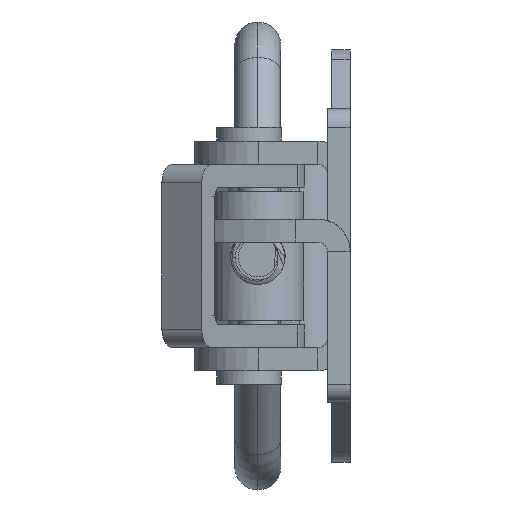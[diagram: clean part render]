
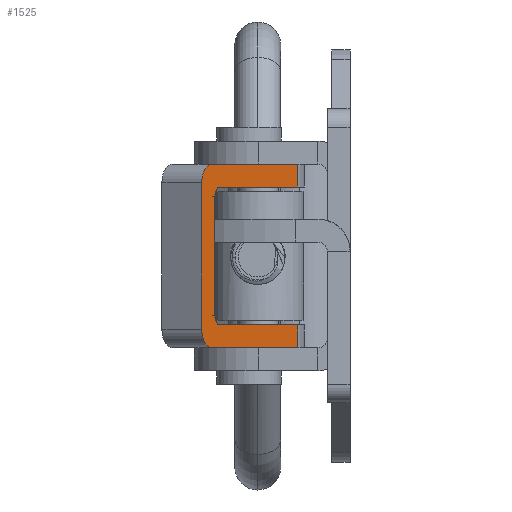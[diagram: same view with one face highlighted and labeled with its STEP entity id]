
A CAD part, left-side view. The second image highlights one B-rep face of the part: STEP entity #1525.
In plain terms, the highlighted planar face has unit normal (-0.574, -0.819, 0) as drawn and (0.574, -0.819, 0) by its records, which use the part's own axes.
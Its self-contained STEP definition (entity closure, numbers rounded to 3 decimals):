
#151 = VERTEX_POINT ( 'NONE', #283 ) ;
#159 = DIRECTION ( 'NONE',  ( -0.574, 0.819, 0. ) ) ;
#283 = CARTESIAN_POINT ( 'NONE',  ( 64.952, 9.725, -16.5 ) ) ;
#321 = CARTESIAN_POINT ( 'NONE',  ( 65.362, 10.011, -20. ) ) ;
#609 = VECTOR ( 'NONE', #7687, 1000. ) ;
#623 = DIRECTION ( 'NONE',  ( 0., 0., 1. ) ) ;
#744 = VERTEX_POINT ( 'NONE', #10063 ) ;
#927 = VERTEX_POINT ( 'NONE', #7425 ) ;
#1089 = CARTESIAN_POINT ( 'NONE',  ( 64.952, 9.725, 0. ) ) ;
#1219 = VECTOR ( 'NONE', #623, 1000. ) ;
#1237 = DIRECTION ( 'NONE',  ( 0.574, -0.819, 0. ) ) ;
#1525 = ADVANCED_FACE ( 'NONE', ( #6208 ), #10787, .T. ) ;
#1541 = AXIS2_PLACEMENT_3D ( 'NONE', #4654, #11646, #5701 ) ;
#1573 = LINE ( 'NONE', #1574, #1219 ) ;
#1574 = CARTESIAN_POINT ( 'NONE',  ( 52.097, 0.723, -20. ) ) ;
#1743 = DIRECTION ( 'NONE',  ( 0., 0., 1. ) ) ;
#2021 = CARTESIAN_POINT ( 'NONE',  ( 64.133, 9.151, -2.5 ) ) ;
#2104 = DIRECTION ( 'NONE',  ( 0.819, 0.574, 0. ) ) ;
#2243 = VERTEX_POINT ( 'NONE', #9120 ) ;
#2614 = CARTESIAN_POINT ( 'NONE',  ( 67., 11.158, -20. ) ) ;
#2920 = VERTEX_POINT ( 'NONE', #4941 ) ;
#3061 = CARTESIAN_POINT ( 'NONE',  ( 16.8, -23.992, -17.5 ) ) ;
#3135 = CARTESIAN_POINT ( 'NONE',  ( 16.8, -23.992, -20. ) ) ;
#3691 = CARTESIAN_POINT ( 'NONE',  ( 16.8, -23.992, 0. ) ) ;
#3879 = CARTESIAN_POINT ( 'NONE',  ( 67., 11.158, -2. ) ) ;
#4160 = CARTESIAN_POINT ( 'NONE',  ( 52.097, 0.723, -2.5 ) ) ;
#4323 = AXIS2_PLACEMENT_3D ( 'NONE', #11762, #10422, #10266 ) ;
#4573 = CARTESIAN_POINT ( 'NONE',  ( 52.097, 0.723, -20. ) ) ;
#4654 = CARTESIAN_POINT ( 'NONE',  ( 65.362, 10.011, -2. ) ) ;
#4875 = CARTESIAN_POINT ( 'NONE',  ( 16.8, -23.992, -2.5 ) ) ;
#4923 = DIRECTION ( 'NONE',  ( -0.574, 0.819, 0. ) ) ;
#4941 = CARTESIAN_POINT ( 'NONE',  ( 52.097, 0.723, -17.5 ) ) ;
#5701 = DIRECTION ( 'NONE',  ( 0.819, 0.574, 0. ) ) ;
#5724 = CARTESIAN_POINT ( 'NONE',  ( 67., 11.158, -18. ) ) ;
#5991 = CARTESIAN_POINT ( 'NONE',  ( 64.133, 9.151, -16.5 ) ) ;
#6111 = VERTEX_POINT ( 'NONE', #9391 ) ;
#6148 = DIRECTION ( 'NONE',  ( 0.819, 0.574, 0. ) ) ;
#6208 = FACE_OUTER_BOUND ( 'NONE', #9985, .T. ) ;
#6805 = AXIS2_PLACEMENT_3D ( 'NONE', #10896, #4923, #11899 ) ;
#6998 = DIRECTION ( 'NONE',  ( 0.819, 0.574, 0. ) ) ;
#7083 = VERTEX_POINT ( 'NONE', #3879 ) ;
#7132 = CARTESIAN_POINT ( 'NONE',  ( 65.362, 10.011, -18. ) ) ;
#7425 = CARTESIAN_POINT ( 'NONE',  ( 52.097, 0.723, 0. ) ) ;
#7517 = AXIS2_PLACEMENT_3D ( 'NONE', #5991, #159, #6998 ) ;
#7625 = LINE ( 'NONE', #4573, #7657 ) ;
#7630 = LINE ( 'NONE', #2614, #7731 ) ;
#7657 = VECTOR ( 'NONE', #9674, 1000. ) ;
#7687 = DIRECTION ( 'NONE',  ( 0.819, 0.574, 0. ) ) ;
#7698 = CIRCLE ( 'NONE', #1541, 2. ) ;
#7731 = VECTOR ( 'NONE', #1743, 1000. ) ;
#7847 = VECTOR ( 'NONE', #9875, 1000. ) ;
#7863 = CIRCLE ( 'NONE', #6805, 1. ) ;
#7893 = LINE ( 'NONE', #4875, #7847 ) ;
#7964 = LINE ( 'NONE', #1089, #8019 ) ;
#8019 = VECTOR ( 'NONE', #10005, 1000. ) ;
#8035 = CIRCLE ( 'NONE', #7517, 1. ) ;
#8065 = LINE ( 'NONE', #3061, #8138 ) ;
#8138 = VECTOR ( 'NONE', #2104, 1000. ) ;
#8152 = CIRCLE ( 'NONE', #10807, 2. ) ;
#8159 = ORIENTED_EDGE ( 'NONE', *, *, #10543, .T. ) ;
#8205 = VERTEX_POINT ( 'NONE', #12165 ) ;
#8206 = DIRECTION ( 'NONE',  ( 0.819, 0.574, 0. ) ) ;
#8282 = ORIENTED_EDGE ( 'NONE', *, *, #10578, .T. ) ;
#8303 = LINE ( 'NONE', #3135, #8428 ) ;
#8332 = ORIENTED_EDGE ( 'NONE', *, *, #8732, .F. ) ;
#8428 = VECTOR ( 'NONE', #6148, 1000. ) ;
#8452 = ORIENTED_EDGE ( 'NONE', *, *, #8518, .F. ) ;
#8518 = EDGE_CURVE ( 'NONE', #10081, #927, #1573, .T. ) ;
#8732 = EDGE_CURVE ( 'NONE', #927, #6111, #11985, .T. ) ;
#9056 = ORIENTED_EDGE ( 'NONE', *, *, #10859, .F. ) ;
#9073 = EDGE_CURVE ( 'NONE', #8205, #9110, #8303, .T. ) ;
#9110 = VERTEX_POINT ( 'NONE', #321 ) ;
#9120 = CARTESIAN_POINT ( 'NONE',  ( 64.952, 9.725, -3.5 ) ) ;
#9351 = ORIENTED_EDGE ( 'NONE', *, *, #10483, .F. ) ;
#9387 = ORIENTED_EDGE ( 'NONE', *, *, #9073, .T. ) ;
#9391 = CARTESIAN_POINT ( 'NONE',  ( 65.362, 10.011, 0. ) ) ;
#9526 = ORIENTED_EDGE ( 'NONE', *, *, #10941, .T. ) ;
#9674 = DIRECTION ( 'NONE',  ( 0., 0., 1. ) ) ;
#9875 = DIRECTION ( 'NONE',  ( -0.819, -0.574, 0. ) ) ;
#9985 = EDGE_LOOP ( 'NONE', ( #8159, #8282, #8332, #8452, #11043, #11210, #11492, #11770, #9056, #9351, #9387, #9526 ) ) ;
#10005 = DIRECTION ( 'NONE',  ( 0., 0., 1. ) ) ;
#10063 = CARTESIAN_POINT ( 'NONE',  ( 64.133, 9.151, -17.5 ) ) ;
#10081 = VERTEX_POINT ( 'NONE', #4160 ) ;
#10266 = DIRECTION ( 'NONE',  ( 0.819, 0.574, 0. ) ) ;
#10422 = DIRECTION ( 'NONE',  ( 0.574, -0.819, 0. ) ) ;
#10483 = EDGE_CURVE ( 'NONE', #8205, #2920, #7625, .T. ) ;
#10543 = EDGE_CURVE ( 'NONE', #11377, #7083, #7630, .T. ) ;
#10578 = EDGE_CURVE ( 'NONE', #7083, #6111, #7698, .T. ) ;
#10702 = EDGE_CURVE ( 'NONE', #10791, #10081, #7893, .T. ) ;
#10730 = EDGE_CURVE ( 'NONE', #10791, #2243, #7863, .T. ) ;
#10768 = EDGE_CURVE ( 'NONE', #151, #2243, #7964, .T. ) ;
#10784 = EDGE_CURVE ( 'NONE', #151, #744, #8035, .T. ) ;
#10787 = PLANE ( 'NONE',  #4323 ) ;
#10791 = VERTEX_POINT ( 'NONE', #2021 ) ;
#10807 = AXIS2_PLACEMENT_3D ( 'NONE', #7132, #1237, #8206 ) ;
#10859 = EDGE_CURVE ( 'NONE', #2920, #744, #8065, .T. ) ;
#10896 = CARTESIAN_POINT ( 'NONE',  ( 64.133, 9.151, -3.5 ) ) ;
#10941 = EDGE_CURVE ( 'NONE', #9110, #11377, #8152, .T. ) ;
#11043 = ORIENTED_EDGE ( 'NONE', *, *, #10702, .F. ) ;
#11210 = ORIENTED_EDGE ( 'NONE', *, *, #10730, .T. ) ;
#11377 = VERTEX_POINT ( 'NONE', #5724 ) ;
#11492 = ORIENTED_EDGE ( 'NONE', *, *, #10768, .F. ) ;
#11646 = DIRECTION ( 'NONE',  ( 0.574, -0.819, 0. ) ) ;
#11762 = CARTESIAN_POINT ( 'NONE',  ( 16.8, -23.992, -20. ) ) ;
#11770 = ORIENTED_EDGE ( 'NONE', *, *, #10784, .T. ) ;
#11899 = DIRECTION ( 'NONE',  ( 0.819, 0.574, 0. ) ) ;
#11985 = LINE ( 'NONE', #3691, #609 ) ;
#12165 = CARTESIAN_POINT ( 'NONE',  ( 52.097, 0.723, -20. ) ) ;
